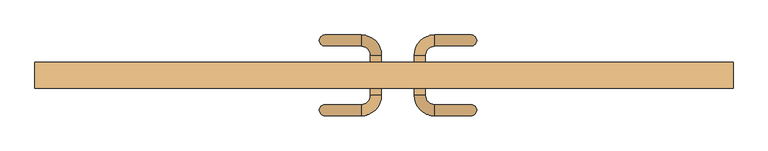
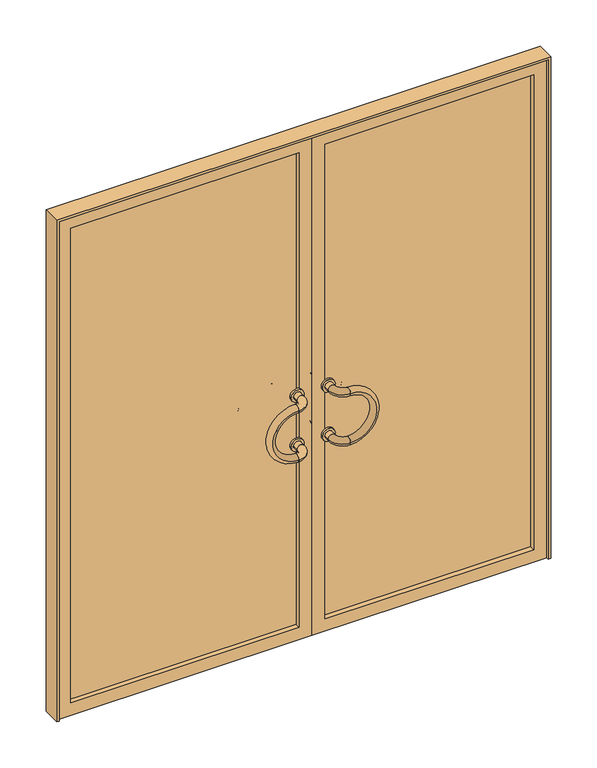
"""IFC4 building model written with IfcOpenShell, lengths in millimetres: door geometry, Tierce Vitrée grand vantail 93 : Double Vitrée."""

import ifcopenshell
import ifcopenshell.guid

model = None  # the IFC model being written
_history = None  # IfcOwnerHistory: only IFC2X3 demands one
_inside = {}  # id of a spatial element -> (the spatial element, [elements in it])
_under = {}  # id of a project, library or spatial element -> (it, [spatial elements below it])
_declared = {}  # id of a project -> (the project, [libraries it declares])
_typed = {}  # id of a type object -> (the type object, [elements of that type])
_made_of = {}  # id of a material, layer set ... -> (it, [elements and type objects made of it])


def new_model(schema):
    """Start an empty IFC model of exactly this schema.

    Asked for "IFC4X3", IfcOpenShell would pick the latest addendum, in which some entities
    have other attributes; the version numbers below select the first issue.
    IFC2X3 requires an IfcOwnerHistory on every rooted entity: one is made here for all.
    """
    global model, _history
    if schema == "IFC4X3":
        model = ifcopenshell.file(schema_version=(4, 3, 0, 0))
    else:
        model = ifcopenshell.file(schema=schema)
    _inside.clear()
    _under.clear()
    _declared.clear()
    _typed.clear()
    _made_of.clear()
    _history = None
    if model.schema == "IFC2X3":
        org = make("IfcOrganization", Name="unknown")
        user = make(
            "IfcPersonAndOrganization",
            ThePerson=make("IfcPerson", FamilyName="unknown"),
            TheOrganization=org,
        )
        app = make(
            "IfcApplication",
            ApplicationDeveloper=org,
            Version="unknown",
            ApplicationFullName="unknown",
            ApplicationIdentifier="unknown",
        )
        _history = make(
            "IfcOwnerHistory",
            OwningUser=user,
            OwningApplication=app,
            ChangeAction="ADDED",
            CreationDate=0,
        )
    return model


def make(cls, **values):
    """One entity of the class cls with the attributes given. An attribute that is None is left unset."""
    return model.create_entity(
        cls, **{name: value for name, value in values.items() if value is not None}
    )


def rooted(cls, **values):
    """An entity with a GlobalId (a new one), such as an element, a storey or a relation."""
    return make(cls, GlobalId=ifcopenshell.guid.new(), OwnerHistory=_history, **values)


def si_unit(unit_type, name, prefix=None):
    """IfcSIUnit, for example si_unit("LENGTHUNIT", "METRE", prefix="MILLI")."""
    return make("IfcSIUnit", UnitType=unit_type, Prefix=prefix, Name=name)


def assignment(units):
    """IfcUnitAssignment: the units of a project."""
    return None if units is None else make("IfcUnitAssignment", Units=units)


def point(xyz):
    """IfcCartesianPoint."""
    return None if xyz is None else make("IfcCartesianPoint", Coordinates=xyz)


def direction(xyz):
    """IfcDirection."""
    return None if xyz is None else make("IfcDirection", DirectionRatios=xyz)


def frame(location, z_axis=None, x_axis=None):
    """IfcAxis2Placement3D, a coordinate frame: its origin and axes. An axis left out is left unset."""
    return make(
        "IfcAxis2Placement3D",
        Location=point(location),
        Axis=direction(z_axis),
        RefDirection=direction(x_axis),
    )


def frame_2d(location, x_axis=None):
    """IfcAxis2Placement2D, a coordinate frame in the plane: its origin and x axis."""
    return make(
        "IfcAxis2Placement2D", Location=point(location), RefDirection=direction(x_axis)
    )


def origin():
    """The frame at (0, 0, 0) with its axes left unset."""
    return frame((0.0, 0.0, 0.0))


def place(relative_to, where):
    """IfcLocalPlacement: puts the frame where relative to a parent placement (None: the world)."""
    return make(
        "IfcLocalPlacement", PlacementRelTo=relative_to, RelativePlacement=where
    )


def context(
    kind, dimensions, precision=None, world=None, true_north=None, identifier=None
):
    """IfcGeometricRepresentationContext, for example the 3D "Model" context."""
    return make(
        "IfcGeometricRepresentationContext",
        ContextIdentifier=identifier,
        ContextType=kind,
        CoordinateSpaceDimension=dimensions,
        Precision=precision,
        WorldCoordinateSystem=world,
        TrueNorth=true_north,
    )


def project(units=None, contexts=None):
    """IfcProject with its units and contexts."""
    return rooted(
        "IfcProject",
        Name="project",
        RepresentationContexts=contexts,
        UnitsInContext=assignment(units),
    )


def spatial(cls, under=None, at=None, **own):
    """A site, building, storey or space (cls), placed at a placement, below another one or the project."""
    s = rooted(cls, ObjectPlacement=at, **own)
    if under is not None:
        _under.setdefault(under.id(), (under, []))[1].append(s)
    return s


def polyline(points):
    """IfcPolyline through the points."""
    return make("IfcPolyline", Points=[point(p) for p in points])


def circle_curve(where, radius):
    """IfcCircle in the frame where."""
    return make("IfcCircle", Position=where, Radius=radius)


def ellipse_curve(where, semi_axis1, semi_axis2):
    """IfcEllipse in the frame where."""
    return make(
        "IfcEllipse", Position=where, SemiAxis1=semi_axis1, SemiAxis2=semi_axis2
    )


def trimmed(basis, trim1, trim2, sense, master):
    """IfcTrimmedCurve: the piece of a basis curve between two trims."""
    return make(
        "IfcTrimmedCurve",
        BasisCurve=basis,
        Trim1=trim1,
        Trim2=trim2,
        SenseAgreement=sense,
        MasterRepresentation=master,
    )


def segment(curve, same_sense, transition):
    """IfcCompositeCurveSegment."""
    return make(
        "IfcCompositeCurveSegment",
        Transition=transition,
        SameSense=same_sense,
        ParentCurve=curve,
    )


def composite_curve(segments, self_intersect=None):
    """IfcCompositeCurve: segments joined end to end."""
    return make("IfcCompositeCurve", Segments=segments, SelfIntersect=self_intersect)


def outline(outer, holes=None, kind="AREA"):
    """IfcArbitraryClosedProfileDef: a profile drawn as a closed curve; with holes, ...WithVoids."""
    if holes is None:
        return make("IfcArbitraryClosedProfileDef", ProfileType=kind, OuterCurve=outer)
    return make(
        "IfcArbitraryProfileDefWithVoids",
        ProfileType=kind,
        OuterCurve=outer,
        InnerCurves=holes,
    )


def extrude(swept, where, along, depth):
    """IfcExtrudedAreaSolid: the profile swept, set in the frame where, extruded along a direction by depth."""
    return make(
        "IfcExtrudedAreaSolid",
        SweptArea=swept,
        Position=where,
        ExtrudedDirection=direction(along),
        Depth=depth,
    )


def shape(context_of_items, identifier, shape_type, items):
    """IfcShapeRepresentation: the items that make up one representation, for example the "Body"."""
    return make(
        "IfcShapeRepresentation",
        ContextOfItems=context_of_items,
        RepresentationIdentifier=identifier,
        RepresentationType=shape_type,
        Items=items,
    )


def source(mapping_origin, context_of_items, identifier, shape_type, items):
    """IfcRepresentationMap: a shape defined once, which mapped items show again and again."""
    return make(
        "IfcRepresentationMap",
        MappingOrigin=mapping_origin,
        MappedRepresentation=shape(context_of_items, identifier, shape_type, items),
    )


def transform(
    local_origin,
    x_axis=None,
    y_axis=None,
    z_axis=None,
    scale=None,
    scale2=None,
    scale3=None,
    uniform=True,
):
    """IfcCartesianTransformationOperator3D, or its non-uniform kind. x_axis, y_axis, z_axis: its Axis1, 2, 3."""
    if uniform:
        return make(
            "IfcCartesianTransformationOperator3D",
            Axis1=direction(x_axis),
            Axis2=direction(y_axis),
            LocalOrigin=point(local_origin),
            Scale=scale,
            Axis3=direction(z_axis),
        )
    return make(
        "IfcCartesianTransformationOperator3DnonUniform",
        Axis1=direction(x_axis),
        Axis2=direction(y_axis),
        LocalOrigin=point(local_origin),
        Scale=scale,
        Axis3=direction(z_axis),
        Scale2=scale2,
        Scale3=scale3,
    )


def mapped(mapping_source, mapping_target):
    """IfcMappedItem: shows the shape of a source again, moved by a transform."""
    return make(
        "IfcMappedItem", MappingSource=mapping_source, MappingTarget=mapping_target
    )


def made_of(thing, what):
    """Note that an element or type object is made of a material, layer set ...; save() writes the relation."""
    if what is not None:
        _made_of.setdefault(what.id(), (what, []))[1].append(thing)
    return thing


def element(
    cls,
    number,
    at=None,
    inside=None,
    cuts=None,
    type_object=None,
    material=None,
    context=None,
    identifier="Body",
    shape_type=None,
    held_by="IfcProductDefinitionShape",
    body=None,
    shapes=None,
    **own,
):
    """One element of the class cls, such as IfcWall. Its Tag is "e" and its number.

    at: its placement. inside: the storey or other place that contains it. cuts: it is an
    opening in that element (IfcRelVoidsElement). A single representation is given by context,
    identifier, shape_type and body (its items); several are given by shapes. held_by: the class
    of the entity that holds the representations. save() writes the other relations.
    """
    e = rooted(cls, Tag="e%d" % number, ObjectPlacement=at, **own)
    if body is not None:
        shapes = [shape(context, identifier, shape_type, body)]
    if shapes is not None:
        e.Representation = make(held_by, Representations=shapes)
    if inside is not None:
        _inside.setdefault(inside.id(), (inside, []))[1].append(e)
    if cuts is not None:
        rooted(
            "IfcRelVoidsElement", RelatingBuildingElement=cuts, RelatedOpeningElement=e
        )
    if type_object is not None:
        _typed.setdefault(type_object.id(), (type_object, []))[1].append(e)
    return made_of(e, material)


def aggregate(whole, parts):
    """IfcRelAggregates: a whole, such as a stair, and the parts it consists of."""
    return rooted("IfcRelAggregates", RelatingObject=whole, RelatedObjects=parts)


def save(model, path):
    """Write the relations noted so far, then the file.

    IfcRelAggregates (storeys below a building ...), IfcRelContainedInSpatialStructure (elements
    in a storey), IfcRelDefinesByType, IfcRelAssociatesMaterial and IfcRelDeclares: one each for
    every whole, place, type object, material and project.
    """
    for whole, parts in _under.values():
        aggregate(whole, parts)
    for where, things in _inside.values():
        rooted(
            "IfcRelContainedInSpatialStructure",
            RelatedElements=things,
            RelatingStructure=where,
        )
    for kind, things in _typed.values():
        rooted("IfcRelDefinesByType", RelatedObjects=things, RelatingType=kind)
    for what, things in _made_of.values():
        rooted("IfcRelAssociatesMaterial", RelatedObjects=things, RelatingMaterial=what)
    for by, libraries in _declared.values():
        rooted("IfcRelDeclares", RelatingContext=by, RelatedDefinitions=libraries)
    model.write(path)


def plane_surface(at):
    """IfcPlane: the flat surface through the origin of the frame at, square to its z axis."""
    return make("IfcPlane", Position=at)


def revolved_surface(curve, axis_point, axis_direction):
    """IfcSurfaceOfRevolution: the curve turned about the line through axis_point along axis_direction."""
    return make(
        "IfcSurfaceOfRevolution",
        SweptCurve=make("IfcArbitraryOpenProfileDef", ProfileType="CURVE", Curve=curve),
        AxisPosition=make("IfcAxis1Placement", Location=point(axis_point), Axis=direction(axis_direction)),
    )


def advanced_brep(points, edges, surfaces, faces):
    """IfcAdvancedBrep: a solid bounded by faces that lie on surfaces and meet in shared edges.

    An edge is (start, end): straight between two places in points (the first is 0);
    or (start, end, curve); or (start, end, curve, False) where it runs against its curve.
    A face is (place in surfaces, loops), or (place, loops, False) where it looks against
    its surface's normal. A loop lists edges by number (the first is 1), with a minus sign
    where the edge is run from its end to its start. The first loop is the outer one.
    """
    corners = [point(p) for p in points]
    vertices = [make("IfcVertexPoint", VertexGeometry=c) for c in corners]
    made = []
    for start, end, *more in edges:
        made.append(
            make(
                "IfcEdgeCurve",
                EdgeStart=vertices[start],
                EdgeEnd=vertices[end],
                EdgeGeometry=more[0] if more else make("IfcPolyline", Points=[corners[start], corners[end]]),
                SameSense=more[1] if len(more) > 1 else True,
            )
        )
    hull = []
    for where, loops, *sense in faces:
        bounds = []
        for j, loop in enumerate(loops):
            ring = [make("IfcOrientedEdge", EdgeElement=made[abs(k) - 1], Orientation=k > 0) for k in loop]
            bounds.append(
                make(
                    "IfcFaceOuterBound" if j == 0 else "IfcFaceBound",
                    Bound=make("IfcEdgeLoop", EdgeList=ring),
                    Orientation=True,
                )
            )
        hull.append(make("IfcAdvancedFace", Bounds=bounds, FaceSurface=surfaces[where], SameSense=sense[0] if sense else True))
    return make("IfcAdvancedBrep", Outer=make("IfcClosedShell", CfsFaces=hull))


def door_01a4efdb(model_context):
    return source(origin(), model_context, "Body", "SolidModel", [
        extrude(outline(composite_curve([segment(trimmed(circle_curve(frame_2d((1000.0, -22.0)), 25.0), [point((1000.0, 3.0))], [point((1000.0, -47.0))], False, "CARTESIAN"), True, "CONTINUOUS"), segment(trimmed(circle_curve(frame_2d((1000.0, -22.0)), 25.0), [point((1000.0, -47.0))], [point((1000.0, 3.0))], False, "CARTESIAN"), True, "CONTINUOUS")], self_intersect=False), holes=[composite_curve([segment(trimmed(circle_curve(frame_2d((1000.0, -22.0)), 15.0), [point((1000.0, -7.0))], [point((1000.0, -37.0))], True, "CARTESIAN"), True, "CONTINUOUS"), segment(trimmed(circle_curve(frame_2d((1000.0, -22.0)), 15.0), [point((1000.0, -37.0))], [point((1000.0, -7.0))], True, "CARTESIAN"), True, "CONTINUOUS")], self_intersect=False)]), frame((0.0, 35.0, 0.0), z_axis=(0.0, 1.0, 0.0), x_axis=(0.0, 0.0, 1.0)), (0.0, 0.0, 1.0), 8.0),
        extrude(outline(composite_curve([segment(trimmed(circle_curve(frame_2d((800.0, -22.0)), 25.0), [point((800.0, 3.0))], [point((800.0, -47.0))], False, "CARTESIAN"), True, "CONTINUOUS"), segment(trimmed(circle_curve(frame_2d((800.0, -22.0)), 25.0), [point((800.0, -47.0))], [point((800.0, 3.0))], False, "CARTESIAN"), True, "CONTINUOUS")], self_intersect=False), holes=[composite_curve([segment(trimmed(circle_curve(frame_2d((800.0, -22.0)), 15.0), [point((800.0, -7.0))], [point((800.0, -37.0))], True, "CARTESIAN"), True, "CONTINUOUS"), segment(trimmed(circle_curve(frame_2d((800.0, -22.0)), 15.0), [point((800.0, -37.0))], [point((800.0, -7.0))], True, "CARTESIAN"), True, "CONTINUOUS")], self_intersect=False)]), frame((0.0, 35.0, 0.0), z_axis=(0.0, 1.0, 0.0), x_axis=(0.0, 0.0, 1.0)), (0.0, 0.0, 1.0), 8.0),
        extrude(outline(composite_curve([segment(trimmed(circle_curve(frame_2d((1000.0, -22.0)), 25.0), [point((1000.0, 3.0))], [point((1000.0, -47.0))], False, "CARTESIAN"), True, "CONTINUOUS"), segment(trimmed(circle_curve(frame_2d((1000.0, -22.0)), 25.0), [point((1000.0, -47.0))], [point((1000.0, 3.0))], False, "CARTESIAN"), True, "CONTINUOUS")], self_intersect=False), holes=[composite_curve([segment(trimmed(circle_curve(frame_2d((1000.0, -22.0)), 15.0), [point((1000.0, -7.0))], [point((1000.0, -37.0))], True, "CARTESIAN"), True, "CONTINUOUS"), segment(trimmed(circle_curve(frame_2d((1000.0, -22.0)), 15.0), [point((1000.0, -37.0))], [point((1000.0, -7.0))], True, "CARTESIAN"), True, "CONTINUOUS")], self_intersect=False)]), frame((0.0, -23.0, 0.0), z_axis=(0.0, 1.0, 0.0), x_axis=(0.0, 0.0, 1.0)), (0.0, 0.0, 1.0), 8.0),
        extrude(outline(composite_curve([segment(trimmed(circle_curve(frame_2d((800.0, -22.0)), 25.0), [point((800.0, 3.0))], [point((800.0, -47.0))], False, "CARTESIAN"), True, "CONTINUOUS"), segment(trimmed(circle_curve(frame_2d((800.0, -22.0)), 25.0), [point((800.0, -47.0))], [point((800.0, 3.0))], False, "CARTESIAN"), True, "CONTINUOUS")], self_intersect=False), holes=[composite_curve([segment(trimmed(circle_curve(frame_2d((800.0, -22.0)), 15.0), [point((800.0, -7.0))], [point((800.0, -37.0))], True, "CARTESIAN"), True, "CONTINUOUS"), segment(trimmed(circle_curve(frame_2d((800.0, -22.0)), 15.0), [point((800.0, -37.0))], [point((800.0, -7.0))], True, "CARTESIAN"), True, "CONTINUOUS")], self_intersect=False)]), frame((0.0, -23.0, 0.0), z_axis=(0.0, 1.0, 0.0), x_axis=(0.0, 0.0, 1.0)), (0.0, 0.0, 1.0), 8.0),
        advanced_brep(
        [(-62.0, 120.0, 1000.0), (-62.0, 90.0, 1000.0), (-62.0, 120.0, 800.0), (-62.0, 90.0, 800.0)],
        [
            (0, 1, circle_curve(frame((-62.0, 105.0, 1000.0), z_axis=(1.0, 0.0, 0.0), x_axis=(0.0, -1.0, 0.0)), 15.0)),
            (1, 0, circle_curve(frame((-62.0, 105.0, 1000.0), z_axis=(1.0, 0.0, 0.0), x_axis=(0.0, -1.0, 0.0)), 15.0)),
            (2, 3, circle_curve(frame((-62.0, 105.0, 800.0), z_axis=(1.0, 0.0, 0.0), x_axis=(0.0, -1.0, 0.0)), 15.0)),
            (3, 2, circle_curve(frame((-62.0, 105.0, 800.0), z_axis=(1.0, 0.0, 0.0), x_axis=(0.0, -1.0, 0.0)), 15.0)),
            (2, 0, circle_curve(frame((-62.0, 120.0, 900.0), z_axis=(0.0, 1.0, 0.0), x_axis=(0.0, 0.0, 1.0)), 100.0)),
            (1, 3, circle_curve(frame((-62.0, 90.0, 900.0), z_axis=(0.0, -1.0, 0.0), x_axis=(0.0, 0.0, 1.0)), 100.0)),
        ],
        [
            plane_surface(frame((-62.0, 105.0, 900.0), z_axis=(1.0, 0.0, 0.0), x_axis=(0.0, 0.0, 1.0))),
            plane_surface(frame((-62.0, 105.0, 900.0), z_axis=(1.0, 0.0, 0.0), x_axis=(0.0, 0.0, -1.0))),
            revolved_surface(trimmed(ellipse_curve(frame((-62.0, 105.0, 1000.0), z_axis=(-1.0, 0.0, 0.0), x_axis=(0.0, -1.0, 0.0)), 15.0, 15.0), [point((-62.0, 120.0, 1000.0))], [point((-62.0, 90.0, 1000.0))], True, "CARTESIAN"), (-62.0, 105.0, 900.0), (0.0, 1.0, 0.0)),
            revolved_surface(trimmed(ellipse_curve(frame((-62.0, 105.0, 1000.0), z_axis=(-1.0, 0.0, 0.0), x_axis=(0.0, -1.0, 0.0)), 15.0, 15.0), [point((-62.0, 90.0, 1000.0))], [point((-62.0, 120.0, 1000.0))], True, "CARTESIAN"), (-62.0, 105.0, 900.0), (0.0, 1.0, 0.0)),
        ],
        [
            (0, [[1, 2]]),
            (1, [[3, 4]]),
            (2, [[-3, 5, -2, 6]]),
            (3, [[-4, -6, -1, -5]]),
        ],
    ),
        advanced_brep(
        [(-37.0, 65.0, 1000.0), (-7.0, 65.0, 1000.0), (-62.0, 90.0, 1000.0), (-62.0, 120.0, 1000.0)],
        [
            (0, 1, circle_curve(frame((-22.0, 65.0, 1000.0), z_axis=(0.0, -1.0, 0.0), x_axis=(1.0, 0.0, 0.0)), 15.0)),
            (1, 0, circle_curve(frame((-22.0, 65.0, 1000.0), z_axis=(0.0, -1.0, 0.0), x_axis=(1.0, 0.0, 0.0)), 15.0)),
            (2, 3, circle_curve(frame((-62.0, 105.0, 1000.0), z_axis=(-1.0, 0.0, 0.0), x_axis=(0.0, 1.0, 0.0)), 15.0)),
            (3, 2, circle_curve(frame((-62.0, 105.0, 1000.0), z_axis=(-1.0, 0.0, 0.0), x_axis=(0.0, 1.0, 0.0)), 15.0)),
            (2, 0, circle_curve(frame((-62.0, 65.0, 1000.0), z_axis=(0.0, 0.0, -1.0), x_axis=(1.0, 0.0, 0.0)), 25.0)),
            (1, 3, circle_curve(frame((-62.0, 65.0, 1000.0), z_axis=(0.0, 0.0, 1.0), x_axis=(1.0, 0.0, 0.0)), 55.0)),
        ],
        [
            plane_surface(frame((-62.0, 65.0, 1000.0), z_axis=(0.0, -1.0, 0.0), x_axis=(1.0, 0.0, 0.0))),
            plane_surface(frame((-62.0, 65.0, 1000.0), z_axis=(-1.0, 0.0, 0.0), x_axis=(0.0, 1.0, 0.0))),
            revolved_surface(trimmed(ellipse_curve(frame((-22.0, 65.0, 1000.0), z_axis=(0.0, 1.0, 0.0), x_axis=(1.0, 0.0, 0.0)), 15.0, 15.0), [point((-37.0, 65.0, 1000.0))], [point((-7.0, 65.0, 1000.0))], True, "CARTESIAN"), (-62.0, 65.0, 1000.0), (0.0, 0.0, -1.0)),
            revolved_surface(trimmed(ellipse_curve(frame((-22.0, 65.0, 1000.0), z_axis=(0.0, 1.0, 0.0), x_axis=(1.0, 0.0, 0.0)), 15.0, 15.0), [point((-7.0, 65.0, 1000.0))], [point((-37.0, 65.0, 1000.0))], True, "CARTESIAN"), (-62.0, 65.0, 1000.0), (0.0, 0.0, -1.0)),
        ],
        [
            (0, [[1, 2]]),
            (1, [[3, 4]]),
            (2, [[-3, 5, -2, 6]]),
            (3, [[-4, -6, -1, -5]]),
        ],
    ),
        advanced_brep(
        [(-37.0, 65.0, 800.0), (-7.0, 65.0, 800.0), (-62.0, 90.0, 800.0), (-62.0, 120.0, 800.0)],
        [
            (0, 1, circle_curve(frame((-22.0, 65.0, 800.0), z_axis=(0.0, -1.0, 0.0), x_axis=(1.0, 0.0, 0.0)), 15.0)),
            (1, 0, circle_curve(frame((-22.0, 65.0, 800.0), z_axis=(0.0, -1.0, 0.0), x_axis=(1.0, 0.0, 0.0)), 15.0)),
            (2, 3, circle_curve(frame((-62.0, 105.0, 800.0), z_axis=(-1.0, 0.0, 0.0), x_axis=(0.0, 1.0, 0.0)), 15.0)),
            (3, 2, circle_curve(frame((-62.0, 105.0, 800.0), z_axis=(-1.0, 0.0, 0.0), x_axis=(0.0, 1.0, 0.0)), 15.0)),
            (2, 0, circle_curve(frame((-62.0, 65.0, 800.0), z_axis=(0.0, 0.0, -1.0), x_axis=(1.0, 0.0, 0.0)), 25.0)),
            (1, 3, circle_curve(frame((-62.0, 65.0, 800.0), z_axis=(0.0, 0.0, 1.0), x_axis=(1.0, 0.0, 0.0)), 55.0)),
        ],
        [
            plane_surface(frame((-62.0, 65.0, 1000.0), z_axis=(0.0, -1.0, 0.0), x_axis=(1.0, 0.0, 0.0))),
            plane_surface(frame((-62.0, 65.0, 1000.0), z_axis=(-1.0, 0.0, 0.0), x_axis=(0.0, 1.0, 0.0))),
            revolved_surface(trimmed(ellipse_curve(frame((-22.0, 65.0, 800.0), z_axis=(0.0, 1.0, 0.0), x_axis=(1.0, 0.0, 0.0)), 15.0, 15.0), [point((-37.0, 65.0, 800.0))], [point((-7.0, 65.0, 800.0))], True, "CARTESIAN"), (-62.0, 65.0, 1000.0), (0.0, 0.0, -1.0)),
            revolved_surface(trimmed(ellipse_curve(frame((-22.0, 65.0, 800.0), z_axis=(0.0, 1.0, 0.0), x_axis=(1.0, 0.0, 0.0)), 15.0, 15.0), [point((-7.0, 65.0, 800.0))], [point((-37.0, 65.0, 800.0))], True, "CARTESIAN"), (-62.0, 65.0, 1000.0), (0.0, 0.0, -1.0)),
        ],
        [
            (0, [[1, 2]]),
            (1, [[3, 4]]),
            (2, [[-3, 5, -2, 6]]),
            (3, [[-4, -6, -1, -5]]),
        ],
    ),
        extrude(outline(composite_curve([segment(trimmed(circle_curve(frame_2d((1000.0, -22.0)), 15.0), [point((1000.0, -7.0))], [point((1000.0, -37.0))], False, "CARTESIAN"), True, "CONTINUOUS"), segment(trimmed(circle_curve(frame_2d((1000.0, -22.0)), 15.0), [point((1000.0, -37.0))], [point((1000.0, -7.0))], False, "CARTESIAN"), True, "CONTINUOUS")], self_intersect=False)), frame((0.0, 35.0, 0.0), z_axis=(0.0, 1.0, 0.0), x_axis=(0.0, 0.0, 1.0)), (0.0, 0.0, 1.0), 30.0),
        extrude(outline(composite_curve([segment(trimmed(circle_curve(frame_2d((800.0, -22.0)), 15.0), [point((800.0, -7.0))], [point((800.0, -37.0))], False, "CARTESIAN"), True, "CONTINUOUS"), segment(trimmed(circle_curve(frame_2d((800.0, -22.0)), 15.0), [point((800.0, -37.0))], [point((800.0, -7.0))], False, "CARTESIAN"), True, "CONTINUOUS")], self_intersect=False)), frame((0.0, 35.0, 0.0), z_axis=(0.0, 1.0, 0.0), x_axis=(0.0, 0.0, 1.0)), (0.0, 0.0, 1.0), 30.0),
        advanced_brep(
        [(-62.0, -70.0, 1000.0), (-62.0, -100.0, 1000.0), (-62.0, -70.0, 800.0), (-62.0, -100.0, 800.0)],
        [
            (0, 1, circle_curve(frame((-62.0, -85.0, 1000.0), z_axis=(1.0, 0.0, 0.0), x_axis=(0.0, -1.0, 0.0)), 15.0)),
            (1, 0, circle_curve(frame((-62.0, -85.0, 1000.0), z_axis=(1.0, 0.0, 0.0), x_axis=(0.0, -1.0, 0.0)), 15.0)),
            (2, 3, circle_curve(frame((-62.0, -85.0, 800.0), z_axis=(1.0, 0.0, 0.0), x_axis=(0.0, -1.0, 0.0)), 15.0)),
            (3, 2, circle_curve(frame((-62.0, -85.0, 800.0), z_axis=(1.0, 0.0, 0.0), x_axis=(0.0, -1.0, 0.0)), 15.0)),
            (2, 0, circle_curve(frame((-62.0, -70.0, 900.0), z_axis=(0.0, 1.0, 0.0), x_axis=(0.0, 0.0, 1.0)), 100.0)),
            (1, 3, circle_curve(frame((-62.0, -100.0, 900.0), z_axis=(0.0, -1.0, 0.0), x_axis=(0.0, 0.0, 1.0)), 100.0)),
        ],
        [
            plane_surface(frame((-62.0, -100.0, 900.0), z_axis=(1.0, 0.0, 0.0), x_axis=(0.0, 0.0, 1.0))),
            plane_surface(frame((-62.0, -100.0, 900.0), z_axis=(1.0, 0.0, 0.0), x_axis=(0.0, 0.0, -1.0))),
            revolved_surface(trimmed(ellipse_curve(frame((-62.0, -85.0, 1000.0), z_axis=(-1.0, 0.0, 0.0), x_axis=(0.0, -1.0, 0.0)), 15.0, 15.0), [point((-62.0, -70.0, 1000.0))], [point((-62.0, -100.0, 1000.0))], True, "CARTESIAN"), (-62.0, -100.0, 900.0), (0.0, 1.0, 0.0)),
            revolved_surface(trimmed(ellipse_curve(frame((-62.0, -85.0, 1000.0), z_axis=(-1.0, 0.0, 0.0), x_axis=(0.0, -1.0, 0.0)), 15.0, 15.0), [point((-62.0, -100.0, 1000.0))], [point((-62.0, -70.0, 1000.0))], True, "CARTESIAN"), (-62.0, -100.0, 900.0), (0.0, 1.0, 0.0)),
        ],
        [
            (0, [[1, 2]]),
            (1, [[3, 4]]),
            (2, [[-3, 5, -2, 6]]),
            (3, [[-4, -6, -1, -5]]),
        ],
    ),
        advanced_brep(
        [(-7.0, -45.0, 1000.0), (-37.0, -45.0, 1000.0), (-62.0, -100.0, 1000.0), (-62.0, -70.0, 1000.0)],
        [
            (0, 1, circle_curve(frame((-22.0, -45.0, 1000.0), z_axis=(0.0, 1.0, 0.0), x_axis=(-1.0, 0.0, 0.0)), 15.0)),
            (1, 0, circle_curve(frame((-22.0, -45.0, 1000.0), z_axis=(0.0, 1.0, 0.0), x_axis=(-1.0, 0.0, 0.0)), 15.0)),
            (2, 3, circle_curve(frame((-62.0, -85.0, 1000.0), z_axis=(-1.0, 0.0, 0.0), x_axis=(0.0, 1.0, 0.0)), 15.0)),
            (3, 2, circle_curve(frame((-62.0, -85.0, 1000.0), z_axis=(-1.0, 0.0, 0.0), x_axis=(0.0, 1.0, 0.0)), 15.0)),
            (2, 0, circle_curve(frame((-62.0, -45.0, 1000.0), z_axis=(0.0, 0.0, 1.0), x_axis=(1.0, 0.0, 0.0)), 55.0)),
            (1, 3, circle_curve(frame((-62.0, -45.0, 1000.0), z_axis=(0.0, 0.0, -1.0), x_axis=(1.0, 0.0, 0.0)), 25.0)),
        ],
        [
            plane_surface(frame((-62.0, -45.0, 1000.0), z_axis=(0.0, 1.0, 0.0), x_axis=(1.0, 0.0, 0.0))),
            plane_surface(frame((-62.0, -45.0, 1000.0), z_axis=(-1.0, 0.0, 0.0), x_axis=(0.0, -1.0, 0.0))),
            revolved_surface(trimmed(ellipse_curve(frame((-22.0, -45.0, 1000.0), z_axis=(0.0, -1.0, 0.0), x_axis=(-1.0, 0.0, 0.0)), 15.0, 15.0), [point((-7.0, -45.0, 1000.0))], [point((-37.0, -45.0, 1000.0))], True, "CARTESIAN"), (-62.0, -45.0, 1000.0), (0.0, 0.0, 1.0)),
            revolved_surface(trimmed(ellipse_curve(frame((-22.0, -45.0, 1000.0), z_axis=(0.0, -1.0, 0.0), x_axis=(-1.0, 0.0, 0.0)), 15.0, 15.0), [point((-37.0, -45.0, 1000.0))], [point((-7.0, -45.0, 1000.0))], True, "CARTESIAN"), (-62.0, -45.0, 1000.0), (0.0, 0.0, 1.0)),
        ],
        [
            (0, [[1, 2]]),
            (1, [[3, 4]]),
            (2, [[-3, 5, -2, 6]]),
            (3, [[-4, -6, -1, -5]]),
        ],
    ),
        advanced_brep(
        [(-7.0, -45.0, 800.0), (-37.0, -45.0, 800.0), (-62.0, -100.0, 800.0), (-62.0, -70.0, 800.0)],
        [
            (0, 1, circle_curve(frame((-22.0, -45.0, 800.0), z_axis=(0.0, 1.0, 0.0), x_axis=(-1.0, 0.0, 0.0)), 15.0)),
            (1, 0, circle_curve(frame((-22.0, -45.0, 800.0), z_axis=(0.0, 1.0, 0.0), x_axis=(-1.0, 0.0, 0.0)), 15.0)),
            (2, 3, circle_curve(frame((-62.0, -85.0, 800.0), z_axis=(-1.0, 0.0, 0.0), x_axis=(0.0, 1.0, 0.0)), 15.0)),
            (3, 2, circle_curve(frame((-62.0, -85.0, 800.0), z_axis=(-1.0, 0.0, 0.0), x_axis=(0.0, 1.0, 0.0)), 15.0)),
            (2, 0, circle_curve(frame((-62.0, -45.0, 800.0), z_axis=(0.0, 0.0, 1.0), x_axis=(1.0, 0.0, 0.0)), 55.0)),
            (1, 3, circle_curve(frame((-62.0, -45.0, 800.0), z_axis=(0.0, 0.0, -1.0), x_axis=(1.0, 0.0, 0.0)), 25.0)),
        ],
        [
            plane_surface(frame((-62.0, -45.0, 1000.0), z_axis=(0.0, 1.0, 0.0), x_axis=(1.0, 0.0, 0.0))),
            plane_surface(frame((-62.0, -45.0, 1000.0), z_axis=(-1.0, 0.0, 0.0), x_axis=(0.0, -1.0, 0.0))),
            revolved_surface(trimmed(ellipse_curve(frame((-22.0, -45.0, 800.0), z_axis=(0.0, -1.0, 0.0), x_axis=(-1.0, 0.0, 0.0)), 15.0, 15.0), [point((-7.0, -45.0, 800.0))], [point((-37.0, -45.0, 800.0))], True, "CARTESIAN"), (-62.0, -45.0, 1000.0), (0.0, 0.0, 1.0)),
            revolved_surface(trimmed(ellipse_curve(frame((-22.0, -45.0, 800.0), z_axis=(0.0, -1.0, 0.0), x_axis=(-1.0, 0.0, 0.0)), 15.0, 15.0), [point((-37.0, -45.0, 800.0))], [point((-7.0, -45.0, 800.0))], True, "CARTESIAN"), (-62.0, -45.0, 1000.0), (0.0, 0.0, 1.0)),
        ],
        [
            (0, [[1, 2]]),
            (1, [[3, 4]]),
            (2, [[-3, 5, -2, 6]]),
            (3, [[-4, -6, -1, -5]]),
        ],
    ),
        extrude(outline(composite_curve([segment(trimmed(circle_curve(frame_2d((1000.0, -22.0)), 15.0), [point((1000.0, -7.0))], [point((1000.0, -37.0))], False, "CARTESIAN"), True, "CONTINUOUS"), segment(trimmed(circle_curve(frame_2d((1000.0, -22.0)), 15.0), [point((1000.0, -37.0))], [point((1000.0, -7.0))], False, "CARTESIAN"), True, "CONTINUOUS")], self_intersect=False)), frame((0.0, -45.0, 0.0), z_axis=(0.0, 1.0, 0.0), x_axis=(0.0, 0.0, 1.0)), (0.0, 0.0, 1.0), 30.0),
        extrude(outline(composite_curve([segment(trimmed(circle_curve(frame_2d((800.0, -22.0)), 15.0), [point((800.0, -7.0))], [point((800.0, -37.0))], False, "CARTESIAN"), True, "CONTINUOUS"), segment(trimmed(circle_curve(frame_2d((800.0, -22.0)), 15.0), [point((800.0, -37.0))], [point((800.0, -7.0))], False, "CARTESIAN"), True, "CONTINUOUS")], self_intersect=False)), frame((0.0, -45.0, 0.0), z_axis=(0.0, 1.0, 0.0), x_axis=(0.0, 0.0, 1.0)), (0.0, 0.0, 1.0), 30.0),
        extrude(outline(composite_curve([segment(trimmed(circle_curve(frame_2d((1000.0, 98.0)), 25.0), [point((1000.0, 73.0))], [point((1000.0, 123.0))], False, "CARTESIAN"), True, "CONTINUOUS"), segment(trimmed(circle_curve(frame_2d((1000.0, 98.0)), 25.0), [point((1000.0, 123.0))], [point((1000.0, 73.0))], False, "CARTESIAN"), True, "CONTINUOUS")], self_intersect=False), holes=[composite_curve([segment(trimmed(circle_curve(frame_2d((1000.0, 98.0)), 15.0), [point((1000.0, 83.0))], [point((1000.0, 113.0))], True, "CARTESIAN"), True, "CONTINUOUS"), segment(trimmed(circle_curve(frame_2d((1000.0, 98.0)), 15.0), [point((1000.0, 113.0))], [point((1000.0, 83.0))], True, "CARTESIAN"), True, "CONTINUOUS")], self_intersect=False)]), frame((0.0, 35.0, 0.0), z_axis=(0.0, 1.0, 0.0), x_axis=(0.0, 0.0, 1.0)), (0.0, 0.0, 1.0), 8.0),
        extrude(outline(composite_curve([segment(trimmed(circle_curve(frame_2d((800.0, 98.0)), 25.0), [point((800.0, 73.0))], [point((800.0, 123.0))], False, "CARTESIAN"), True, "CONTINUOUS"), segment(trimmed(circle_curve(frame_2d((800.0, 98.0)), 25.0), [point((800.0, 123.0))], [point((800.0, 73.0))], False, "CARTESIAN"), True, "CONTINUOUS")], self_intersect=False), holes=[composite_curve([segment(trimmed(circle_curve(frame_2d((800.0, 98.0)), 15.0), [point((800.0, 83.0))], [point((800.0, 113.0))], True, "CARTESIAN"), True, "CONTINUOUS"), segment(trimmed(circle_curve(frame_2d((800.0, 98.0)), 15.0), [point((800.0, 113.0))], [point((800.0, 83.0))], True, "CARTESIAN"), True, "CONTINUOUS")], self_intersect=False)]), frame((0.0, 35.0, 0.0), z_axis=(0.0, 1.0, 0.0), x_axis=(0.0, 0.0, 1.0)), (0.0, 0.0, 1.0), 8.0),
        extrude(outline(composite_curve([segment(trimmed(circle_curve(frame_2d((1000.0, 98.0)), 25.0), [point((1000.0, 73.0))], [point((1000.0, 123.0))], False, "CARTESIAN"), True, "CONTINUOUS"), segment(trimmed(circle_curve(frame_2d((1000.0, 98.0)), 25.0), [point((1000.0, 123.0))], [point((1000.0, 73.0))], False, "CARTESIAN"), True, "CONTINUOUS")], self_intersect=False), holes=[composite_curve([segment(trimmed(circle_curve(frame_2d((1000.0, 98.0)), 15.0), [point((1000.0, 83.0))], [point((1000.0, 113.0))], True, "CARTESIAN"), True, "CONTINUOUS"), segment(trimmed(circle_curve(frame_2d((1000.0, 98.0)), 15.0), [point((1000.0, 113.0))], [point((1000.0, 83.0))], True, "CARTESIAN"), True, "CONTINUOUS")], self_intersect=False)]), frame((0.0, -23.0, 0.0), z_axis=(0.0, 1.0, 0.0), x_axis=(0.0, 0.0, 1.0)), (0.0, 0.0, 1.0), 8.0),
        extrude(outline(composite_curve([segment(trimmed(circle_curve(frame_2d((800.0, 98.0)), 25.0), [point((800.0, 73.0))], [point((800.0, 123.0))], False, "CARTESIAN"), True, "CONTINUOUS"), segment(trimmed(circle_curve(frame_2d((800.0, 98.0)), 25.0), [point((800.0, 123.0))], [point((800.0, 73.0))], False, "CARTESIAN"), True, "CONTINUOUS")], self_intersect=False), holes=[composite_curve([segment(trimmed(circle_curve(frame_2d((800.0, 98.0)), 15.0), [point((800.0, 83.0))], [point((800.0, 113.0))], True, "CARTESIAN"), True, "CONTINUOUS"), segment(trimmed(circle_curve(frame_2d((800.0, 98.0)), 15.0), [point((800.0, 113.0))], [point((800.0, 83.0))], True, "CARTESIAN"), True, "CONTINUOUS")], self_intersect=False)]), frame((0.0, -23.0, 0.0), z_axis=(0.0, 1.0, 0.0), x_axis=(0.0, 0.0, 1.0)), (0.0, 0.0, 1.0), 8.0),
        advanced_brep(
        [(138.0, 120.0, 1000.0), (138.0, 90.0, 1000.0), (138.0, 120.0, 800.0), (138.0, 90.0, 800.0)],
        [
            (0, 1, circle_curve(frame((138.0, 105.0, 1000.0), z_axis=(-1.0, 0.0, 0.0), x_axis=(0.0, -1.0, 0.0)), 15.0)),
            (1, 0, circle_curve(frame((138.0, 105.0, 1000.0), z_axis=(-1.0, 0.0, 0.0), x_axis=(0.0, -1.0, 0.0)), 15.0)),
            (2, 3, circle_curve(frame((138.0, 105.0, 800.0), z_axis=(-1.0, 0.0, 0.0), x_axis=(0.0, -1.0, 0.0)), 15.0)),
            (3, 2, circle_curve(frame((138.0, 105.0, 800.0), z_axis=(-1.0, 0.0, 0.0), x_axis=(0.0, -1.0, 0.0)), 15.0)),
            (3, 1, circle_curve(frame((138.0, 90.0, 900.0), z_axis=(0.0, -1.0, 0.0), x_axis=(0.0, 0.0, 1.0)), 100.0)),
            (0, 2, circle_curve(frame((138.0, 120.0, 900.0), z_axis=(0.0, 1.0, 0.0), x_axis=(0.0, 0.0, 1.0)), 100.0)),
        ],
        [
            plane_surface(frame((138.0, 105.0, 900.0), z_axis=(-1.0, 0.0, 0.0), x_axis=(0.0, 0.0, 1.0))),
            plane_surface(frame((138.0, 105.0, 900.0), z_axis=(-1.0, 0.0, 0.0), x_axis=(0.0, 0.0, -1.0))),
            revolved_surface(trimmed(ellipse_curve(frame((138.0, 105.0, 1000.0), z_axis=(-1.0, 0.0, 0.0), x_axis=(0.0, -1.0, 0.0)), 15.0, 15.0), [point((138.0, 120.0, 1000.0))], [point((138.0, 90.0, 1000.0))], True, "CARTESIAN"), (138.0, 105.0, 900.0), (0.0, 1.0, 0.0)),
            revolved_surface(trimmed(ellipse_curve(frame((138.0, 105.0, 1000.0), z_axis=(-1.0, 0.0, 0.0), x_axis=(0.0, -1.0, 0.0)), 15.0, 15.0), [point((138.0, 90.0, 1000.0))], [point((138.0, 120.0, 1000.0))], True, "CARTESIAN"), (138.0, 105.0, 900.0), (0.0, 1.0, 0.0)),
        ],
        [
            (0, [[1, 2]]),
            (1, [[3, 4]]),
            (2, [[5, -1, 6, -4]]),
            (3, [[-6, -2, -5, -3]]),
        ],
    ),
        advanced_brep(
        [(113.0, 65.0, 1000.0), (83.0, 65.0, 1000.0), (138.0, 90.0, 1000.0), (138.0, 120.0, 1000.0)],
        [
            (0, 1, circle_curve(frame((98.0, 65.0, 1000.0), z_axis=(0.0, -1.0, 0.0), x_axis=(-1.0, 0.0, 0.0)), 15.0)),
            (1, 0, circle_curve(frame((98.0, 65.0, 1000.0), z_axis=(0.0, -1.0, 0.0), x_axis=(-1.0, 0.0, 0.0)), 15.0)),
            (2, 3, circle_curve(frame((138.0, 105.0, 1000.0), z_axis=(1.0, 0.0, 0.0), x_axis=(0.0, 1.0, 0.0)), 15.0)),
            (3, 2, circle_curve(frame((138.0, 105.0, 1000.0), z_axis=(1.0, 0.0, 0.0), x_axis=(0.0, 1.0, 0.0)), 15.0)),
            (3, 1, circle_curve(frame((138.0, 65.0, 1000.0), z_axis=(0.0, 0.0, 1.0), x_axis=(-1.0, 0.0, 0.0)), 55.0)),
            (0, 2, circle_curve(frame((138.0, 65.0, 1000.0), z_axis=(0.0, 0.0, -1.0), x_axis=(-1.0, 0.0, 0.0)), 25.0)),
        ],
        [
            plane_surface(frame((138.0, 65.0, 1000.0), z_axis=(0.0, -1.0, 0.0), x_axis=(-1.0, 0.0, 0.0))),
            plane_surface(frame((138.0, 65.0, 1000.0), z_axis=(1.0, 0.0, 0.0), x_axis=(0.0, 1.0, 0.0))),
            revolved_surface(trimmed(ellipse_curve(frame((98.0, 65.0, 1000.0), z_axis=(0.0, -1.0, 0.0), x_axis=(-1.0, 0.0, 0.0)), 15.0, 15.0), [point((113.0, 65.0, 1000.0))], [point((83.0, 65.0, 1000.0))], True, "CARTESIAN"), (138.0, 65.0, 1000.0), (0.0, 0.0, -1.0)),
            revolved_surface(trimmed(ellipse_curve(frame((98.0, 65.0, 1000.0), z_axis=(0.0, -1.0, 0.0), x_axis=(-1.0, 0.0, 0.0)), 15.0, 15.0), [point((83.0, 65.0, 1000.0))], [point((113.0, 65.0, 1000.0))], True, "CARTESIAN"), (138.0, 65.0, 1000.0), (0.0, 0.0, -1.0)),
        ],
        [
            (0, [[1, 2]]),
            (1, [[3, 4]]),
            (2, [[5, -1, 6, -4]]),
            (3, [[-6, -2, -5, -3]]),
        ],
    ),
        advanced_brep(
        [(113.0, 65.0, 800.0), (83.0, 65.0, 800.0), (138.0, 90.0, 800.0), (138.0, 120.0, 800.0)],
        [
            (0, 1, circle_curve(frame((98.0, 65.0, 800.0), z_axis=(0.0, -1.0, 0.0), x_axis=(-1.0, 0.0, 0.0)), 15.0)),
            (1, 0, circle_curve(frame((98.0, 65.0, 800.0), z_axis=(0.0, -1.0, 0.0), x_axis=(-1.0, 0.0, 0.0)), 15.0)),
            (2, 3, circle_curve(frame((138.0, 105.0, 800.0), z_axis=(1.0, 0.0, 0.0), x_axis=(0.0, 1.0, 0.0)), 15.0)),
            (3, 2, circle_curve(frame((138.0, 105.0, 800.0), z_axis=(1.0, 0.0, 0.0), x_axis=(0.0, 1.0, 0.0)), 15.0)),
            (3, 1, circle_curve(frame((138.0, 65.0, 800.0), z_axis=(0.0, 0.0, 1.0), x_axis=(-1.0, 0.0, 0.0)), 55.0)),
            (0, 2, circle_curve(frame((138.0, 65.0, 800.0), z_axis=(0.0, 0.0, -1.0), x_axis=(-1.0, 0.0, 0.0)), 25.0)),
        ],
        [
            plane_surface(frame((138.0, 65.0, 1000.0), z_axis=(0.0, -1.0, 0.0), x_axis=(-1.0, 0.0, 0.0))),
            plane_surface(frame((138.0, 65.0, 1000.0), z_axis=(1.0, 0.0, 0.0), x_axis=(0.0, 1.0, 0.0))),
            revolved_surface(trimmed(ellipse_curve(frame((98.0, 65.0, 800.0), z_axis=(0.0, -1.0, 0.0), x_axis=(-1.0, 0.0, 0.0)), 15.0, 15.0), [point((113.0, 65.0, 800.0))], [point((83.0, 65.0, 800.0))], True, "CARTESIAN"), (138.0, 65.0, 1000.0), (0.0, 0.0, -1.0)),
            revolved_surface(trimmed(ellipse_curve(frame((98.0, 65.0, 800.0), z_axis=(0.0, -1.0, 0.0), x_axis=(-1.0, 0.0, 0.0)), 15.0, 15.0), [point((83.0, 65.0, 800.0))], [point((113.0, 65.0, 800.0))], True, "CARTESIAN"), (138.0, 65.0, 1000.0), (0.0, 0.0, -1.0)),
        ],
        [
            (0, [[1, 2]]),
            (1, [[3, 4]]),
            (2, [[5, -1, 6, -4]]),
            (3, [[-6, -2, -5, -3]]),
        ],
    ),
        extrude(outline(composite_curve([segment(trimmed(circle_curve(frame_2d((1000.0, 98.0)), 15.0), [point((1000.0, 83.0))], [point((1000.0, 113.0))], False, "CARTESIAN"), True, "CONTINUOUS"), segment(trimmed(circle_curve(frame_2d((1000.0, 98.0)), 15.0), [point((1000.0, 113.0))], [point((1000.0, 83.0))], False, "CARTESIAN"), True, "CONTINUOUS")], self_intersect=False)), frame((0.0, 35.0, 0.0), z_axis=(0.0, 1.0, 0.0), x_axis=(0.0, 0.0, 1.0)), (0.0, 0.0, 1.0), 30.0),
        extrude(outline(composite_curve([segment(trimmed(circle_curve(frame_2d((800.0, 98.0)), 15.0), [point((800.0, 83.0))], [point((800.0, 113.0))], False, "CARTESIAN"), True, "CONTINUOUS"), segment(trimmed(circle_curve(frame_2d((800.0, 98.0)), 15.0), [point((800.0, 113.0))], [point((800.0, 83.0))], False, "CARTESIAN"), True, "CONTINUOUS")], self_intersect=False)), frame((0.0, 35.0, 0.0), z_axis=(0.0, 1.0, 0.0), x_axis=(0.0, 0.0, 1.0)), (0.0, 0.0, 1.0), 30.0),
        advanced_brep(
        [(138.0, -70.0, 1000.0), (138.0, -100.0, 1000.0), (138.0, -70.0, 800.0), (138.0, -100.0, 800.0)],
        [
            (0, 1, circle_curve(frame((138.0, -85.0, 1000.0), z_axis=(-1.0, 0.0, 0.0), x_axis=(0.0, -1.0, 0.0)), 15.0)),
            (1, 0, circle_curve(frame((138.0, -85.0, 1000.0), z_axis=(-1.0, 0.0, 0.0), x_axis=(0.0, -1.0, 0.0)), 15.0)),
            (2, 3, circle_curve(frame((138.0, -85.0, 800.0), z_axis=(-1.0, 0.0, 0.0), x_axis=(0.0, -1.0, 0.0)), 15.0)),
            (3, 2, circle_curve(frame((138.0, -85.0, 800.0), z_axis=(-1.0, 0.0, 0.0), x_axis=(0.0, -1.0, 0.0)), 15.0)),
            (3, 1, circle_curve(frame((138.0, -100.0, 900.0), z_axis=(0.0, -1.0, 0.0), x_axis=(0.0, 0.0, 1.0)), 100.0)),
            (0, 2, circle_curve(frame((138.0, -70.0, 900.0), z_axis=(0.0, 1.0, 0.0), x_axis=(0.0, 0.0, 1.0)), 100.0)),
        ],
        [
            plane_surface(frame((138.0, -100.0, 900.0), z_axis=(-1.0, 0.0, 0.0), x_axis=(0.0, 0.0, 1.0))),
            plane_surface(frame((138.0, -100.0, 900.0), z_axis=(-1.0, 0.0, 0.0), x_axis=(0.0, 0.0, -1.0))),
            revolved_surface(trimmed(ellipse_curve(frame((138.0, -85.0, 1000.0), z_axis=(-1.0, 0.0, 0.0), x_axis=(0.0, -1.0, 0.0)), 15.0, 15.0), [point((138.0, -70.0, 1000.0))], [point((138.0, -100.0, 1000.0))], True, "CARTESIAN"), (138.0, -100.0, 900.0), (0.0, 1.0, 0.0)),
            revolved_surface(trimmed(ellipse_curve(frame((138.0, -85.0, 1000.0), z_axis=(-1.0, 0.0, 0.0), x_axis=(0.0, -1.0, 0.0)), 15.0, 15.0), [point((138.0, -100.0, 1000.0))], [point((138.0, -70.0, 1000.0))], True, "CARTESIAN"), (138.0, -100.0, 900.0), (0.0, 1.0, 0.0)),
        ],
        [
            (0, [[1, 2]]),
            (1, [[3, 4]]),
            (2, [[5, -1, 6, -4]]),
            (3, [[-6, -2, -5, -3]]),
        ],
    ),
        advanced_brep(
        [(83.0, -45.0, 1000.0), (113.0, -45.0, 1000.0), (138.0, -100.0, 1000.0), (138.0, -70.0, 1000.0)],
        [
            (0, 1, circle_curve(frame((98.0, -45.0, 1000.0), z_axis=(0.0, 1.0, 0.0), x_axis=(1.0, 0.0, 0.0)), 15.0)),
            (1, 0, circle_curve(frame((98.0, -45.0, 1000.0), z_axis=(0.0, 1.0, 0.0), x_axis=(1.0, 0.0, 0.0)), 15.0)),
            (2, 3, circle_curve(frame((138.0, -85.0, 1000.0), z_axis=(1.0, 0.0, 0.0), x_axis=(0.0, 1.0, 0.0)), 15.0)),
            (3, 2, circle_curve(frame((138.0, -85.0, 1000.0), z_axis=(1.0, 0.0, 0.0), x_axis=(0.0, 1.0, 0.0)), 15.0)),
            (3, 1, circle_curve(frame((138.0, -45.0, 1000.0), z_axis=(0.0, 0.0, -1.0), x_axis=(-1.0, 0.0, 0.0)), 25.0)),
            (0, 2, circle_curve(frame((138.0, -45.0, 1000.0), z_axis=(0.0, 0.0, 1.0), x_axis=(-1.0, 0.0, 0.0)), 55.0)),
        ],
        [
            plane_surface(frame((138.0, -45.0, 1000.0), z_axis=(0.0, 1.0, 0.0), x_axis=(-1.0, 0.0, 0.0))),
            plane_surface(frame((138.0, -45.0, 1000.0), z_axis=(1.0, 0.0, 0.0), x_axis=(0.0, -1.0, 0.0))),
            revolved_surface(trimmed(ellipse_curve(frame((98.0, -45.0, 1000.0), z_axis=(0.0, 1.0, 0.0), x_axis=(1.0, 0.0, 0.0)), 15.0, 15.0), [point((83.0, -45.0, 1000.0))], [point((113.0, -45.0, 1000.0))], True, "CARTESIAN"), (138.0, -45.0, 1000.0), (0.0, 0.0, 1.0)),
            revolved_surface(trimmed(ellipse_curve(frame((98.0, -45.0, 1000.0), z_axis=(0.0, 1.0, 0.0), x_axis=(1.0, 0.0, 0.0)), 15.0, 15.0), [point((113.0, -45.0, 1000.0))], [point((83.0, -45.0, 1000.0))], True, "CARTESIAN"), (138.0, -45.0, 1000.0), (0.0, 0.0, 1.0)),
        ],
        [
            (0, [[1, 2]]),
            (1, [[3, 4]]),
            (2, [[5, -1, 6, -4]]),
            (3, [[-6, -2, -5, -3]]),
        ],
    ),
        advanced_brep(
        [(83.0, -45.0, 800.0), (113.0, -45.0, 800.0), (138.0, -100.0, 800.0), (138.0, -70.0, 800.0)],
        [
            (0, 1, circle_curve(frame((98.0, -45.0, 800.0), z_axis=(0.0, 1.0, 0.0), x_axis=(1.0, 0.0, 0.0)), 15.0)),
            (1, 0, circle_curve(frame((98.0, -45.0, 800.0), z_axis=(0.0, 1.0, 0.0), x_axis=(1.0, 0.0, 0.0)), 15.0)),
            (2, 3, circle_curve(frame((138.0, -85.0, 800.0), z_axis=(1.0, 0.0, 0.0), x_axis=(0.0, 1.0, 0.0)), 15.0)),
            (3, 2, circle_curve(frame((138.0, -85.0, 800.0), z_axis=(1.0, 0.0, 0.0), x_axis=(0.0, 1.0, 0.0)), 15.0)),
            (3, 1, circle_curve(frame((138.0, -45.0, 800.0), z_axis=(0.0, 0.0, -1.0), x_axis=(-1.0, 0.0, 0.0)), 25.0)),
            (0, 2, circle_curve(frame((138.0, -45.0, 800.0), z_axis=(0.0, 0.0, 1.0), x_axis=(-1.0, 0.0, 0.0)), 55.0)),
        ],
        [
            plane_surface(frame((138.0, -45.0, 1000.0), z_axis=(0.0, 1.0, 0.0), x_axis=(-1.0, 0.0, 0.0))),
            plane_surface(frame((138.0, -45.0, 1000.0), z_axis=(1.0, 0.0, 0.0), x_axis=(0.0, -1.0, 0.0))),
            revolved_surface(trimmed(ellipse_curve(frame((98.0, -45.0, 800.0), z_axis=(0.0, 1.0, 0.0), x_axis=(1.0, 0.0, 0.0)), 15.0, 15.0), [point((83.0, -45.0, 800.0))], [point((113.0, -45.0, 800.0))], True, "CARTESIAN"), (138.0, -45.0, 1000.0), (0.0, 0.0, 1.0)),
            revolved_surface(trimmed(ellipse_curve(frame((98.0, -45.0, 800.0), z_axis=(0.0, 1.0, 0.0), x_axis=(1.0, 0.0, 0.0)), 15.0, 15.0), [point((113.0, -45.0, 800.0))], [point((83.0, -45.0, 800.0))], True, "CARTESIAN"), (138.0, -45.0, 1000.0), (0.0, 0.0, 1.0)),
        ],
        [
            (0, [[1, 2]]),
            (1, [[3, 4]]),
            (2, [[5, -1, 6, -4]]),
            (3, [[-6, -2, -5, -3]]),
        ],
    ),
        extrude(outline(composite_curve([segment(trimmed(circle_curve(frame_2d((1000.0, 98.0)), 15.0), [point((1000.0, 83.0))], [point((1000.0, 113.0))], False, "CARTESIAN"), True, "CONTINUOUS"), segment(trimmed(circle_curve(frame_2d((1000.0, 98.0)), 15.0), [point((1000.0, 113.0))], [point((1000.0, 83.0))], False, "CARTESIAN"), True, "CONTINUOUS")], self_intersect=False)), frame((0.0, -45.0, 0.0), z_axis=(0.0, 1.0, 0.0), x_axis=(0.0, 0.0, 1.0)), (0.0, 0.0, 1.0), 30.0),
        extrude(outline(composite_curve([segment(trimmed(circle_curve(frame_2d((800.0, 98.0)), 15.0), [point((800.0, 83.0))], [point((800.0, 113.0))], False, "CARTESIAN"), True, "CONTINUOUS"), segment(trimmed(circle_curve(frame_2d((800.0, 98.0)), 15.0), [point((800.0, 113.0))], [point((800.0, 83.0))], False, "CARTESIAN"), True, "CONTINUOUS")], self_intersect=False)), frame((0.0, -45.0, 0.0), z_axis=(0.0, 1.0, 0.0), x_axis=(0.0, 0.0, 1.0)), (0.0, 0.0, 1.0), 30.0),
        extrude(outline(polyline([(0.0, -952.0), (0.0, -942.0), (2032.0, -942.0), (2032.0, 942.0), (0.0, 942.0), (0.0, 952.0), (2042.0, 952.0), (2042.0, -952.0), (0.0, -952.0)])), frame((0.0, -25.0, 0.0), z_axis=(0.0, 1.0, 0.0), x_axis=(0.0, 0.0, 1.0)), (0.0, 0.0, 1.0), 70.0),
        extrude(outline(polyline([(892.0, 5.0), (88.0, 5.0), (88.0, 15.0), (892.0, 15.0), (892.0, 5.0)])), frame((0.0, 0.0, 50.0), z_axis=(0.0, 0.0, 1.0), x_axis=(1.0, 0.0, 0.0)), (0.0, 0.0, 1.0), 1932.0),
        extrude(outline(polyline([(0.0, 942.0), (2032.0, 942.0), (2032.0, 38.0), (0.0, 38.0), (0.0, 942.0)]), holes=[polyline([(1982.0, 892.0), (50.0, 892.0), (50.0, 88.0), (1982.0, 88.0), (1982.0, 892.0)])]), frame((0.0, -15.0, 0.0), z_axis=(0.0, 1.0, 0.0), x_axis=(0.0, 0.0, 1.0)), (0.0, 0.0, 1.0), 50.0),
        extrude(outline(polyline([(-12.0, 5.0), (-892.0, 5.0), (-892.0, 15.0), (-12.0, 15.0), (-12.0, 5.0)])), frame((0.0, 0.0, 50.0), z_axis=(0.0, 0.0, 1.0), x_axis=(1.0, 0.0, 0.0)), (0.0, 0.0, 1.0), 1932.0),
        extrude(outline(polyline([(2032.0, 38.0), (2032.0, -942.0), (0.0, -942.0), (0.0, 38.0), (2032.0, 38.0)]), holes=[polyline([(1982.0, -12.0), (50.0, -12.0), (50.0, -892.0), (1982.0, -892.0), (1982.0, -12.0)])]), frame((0.0, -15.0, 0.0), z_axis=(0.0, 1.0, 0.0), x_axis=(0.0, 0.0, 1.0)), (0.0, 0.0, 1.0), 50.0),
    ])


if __name__ == "__main__":
    model = new_model("IFC4")
    model_context = context("Model", 3, world=origin())
    ifc_project = project(units=[si_unit("LENGTHUNIT", "METRE", prefix="MILLI")], contexts=[model_context])
    site = spatial("IfcSite", under=ifc_project)
    building = spatial("IfcBuilding", under=site)
    placement = place(None, origin())
    door_shape = door_01a4efdb(model_context)
    element("IfcDoor", 1, ObjectType="Tierce Vitrée grand vantail 93 : Double Vitrée", at=placement, inside=building, context=model_context, shape_type="MappedRepresentation", body=[
        mapped(door_shape, transform((0.0, 0.0, 0.0), x_axis=(1.0, 0.0, 0.0), y_axis=(0.0, 1.0, 0.0), z_axis=(0.0, 0.0, 1.0))),
    ])
    save(model, "model.ifc")
